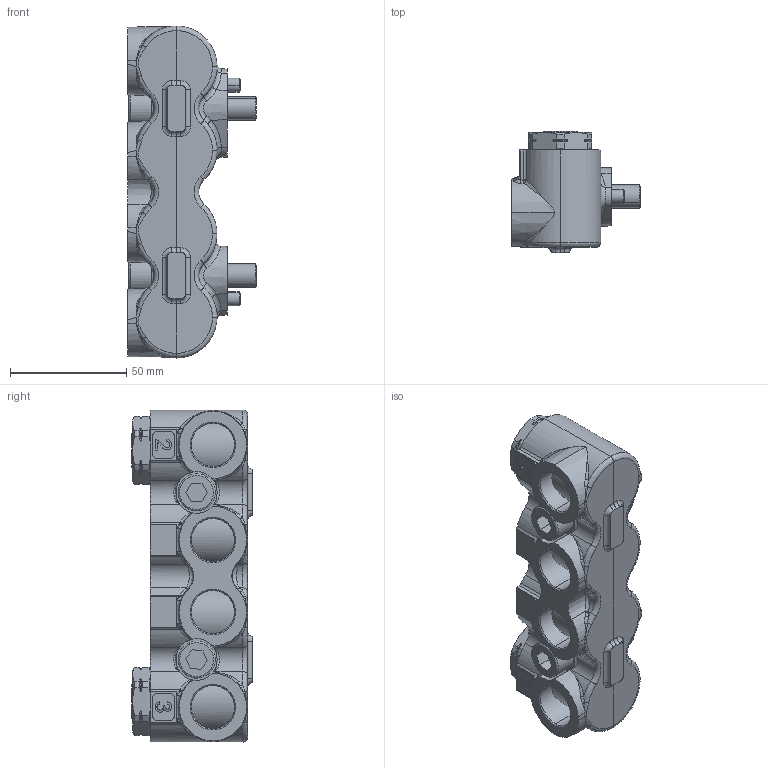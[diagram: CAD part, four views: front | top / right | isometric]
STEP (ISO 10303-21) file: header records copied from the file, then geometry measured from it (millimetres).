
FILE_DESCRIPTION (( 'STEP AP214' ), '1' );
FILE_NAME ('P7318-2B.STEP', '2023-05-25T09:06:32', ( '' ), ( '' ), 'SwSTEP 2.0', 'SolidWorks 2021', '' );
FILE_SCHEMA (( 'AUTOMOTIVE_DESIGN' ));
Length unit declared in the file: millimetre
Products named in the file (1): P7318-2B
Bounding box: 55.5 x 52 x 143 mm (x, y, z)
Volume: 201527.6 mm3; surface area: 46811.1 mm2
Topology: 15 solids, 15 shells, 693 faces, 1708 edges, 1065 vertices
Faces by surface type: cylinder 188, bspline 167, cone 139, plane 135, torus 64
Entity records: 36831 total; most frequent: CARTESIAN_POINT 14060, ORIENTED_EDGE 3408, DIRECTION 2795, EDGE_CURVE 1704, AXIS2_PLACEMENT_3D 1155, VERTEX_POINT 1065, EDGE_LOOP 729, UNCERTAINTY_MEASURE_WITH_UNIT 710
